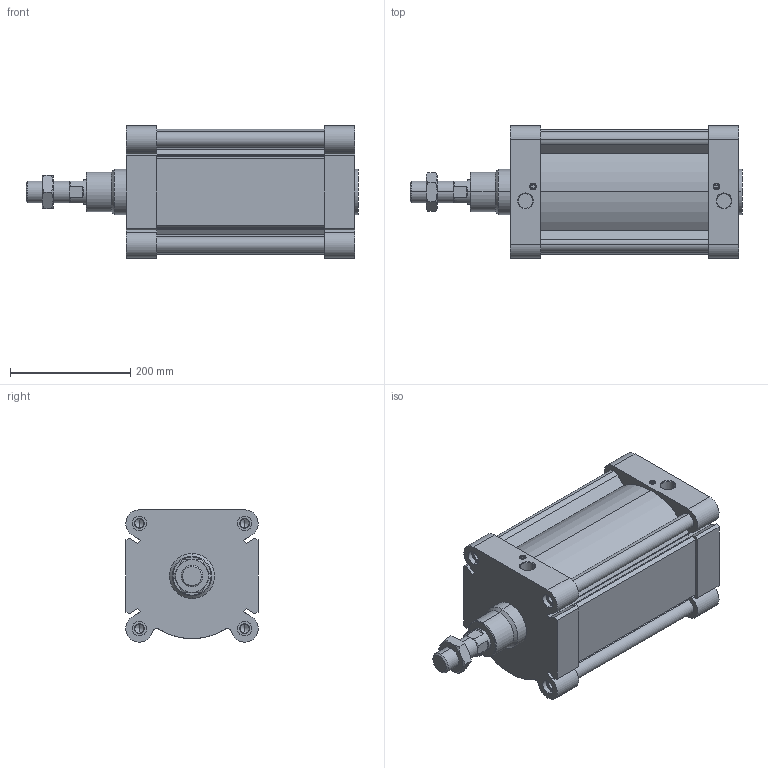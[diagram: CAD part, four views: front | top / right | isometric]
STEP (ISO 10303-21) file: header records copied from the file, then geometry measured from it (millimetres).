
FILE_DESCRIPTION (( 'STEP AP214' ), '1' );
FILE_NAME ('CPME200X200.STEP', '2025-03-26T12:44:16', ( '' ), ( '' ), 'SwSTEP 2.0', 'SolidWorks 2019', '' );
FILE_SCHEMA (( 'AUTOMOTIVE_DESIGN' ));
Length unit declared in the file: millimetre
Products named in the file (1): CPME200X200
Bounding box: 552 x 220 x 220 mm (x, y, z)
Volume: 9539344.2 mm3; surface area: 933846.6 mm2
Topology: 3 solids, 3 shells, 332 faces, 825 edges, 512 vertices
Faces by surface type: plane 161, cylinder 101, cone 70
Entity records: 13855 total; most frequent: CARTESIAN_POINT 2208, DIRECTION 1695, ORIENTED_EDGE 1618, EDGE_CURVE 809, AXIS2_PLACEMENT_3D 591, VECTOR 513, LINE 513, VERTEX_POINT 512
